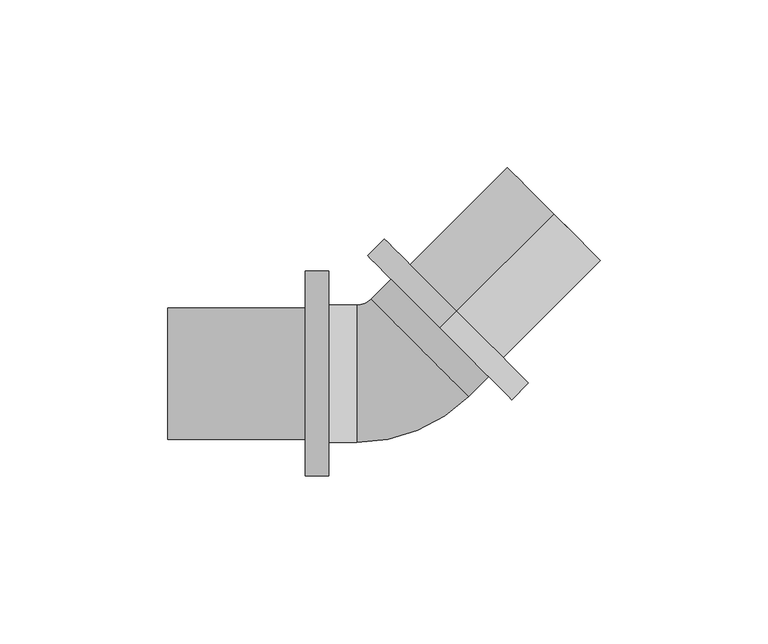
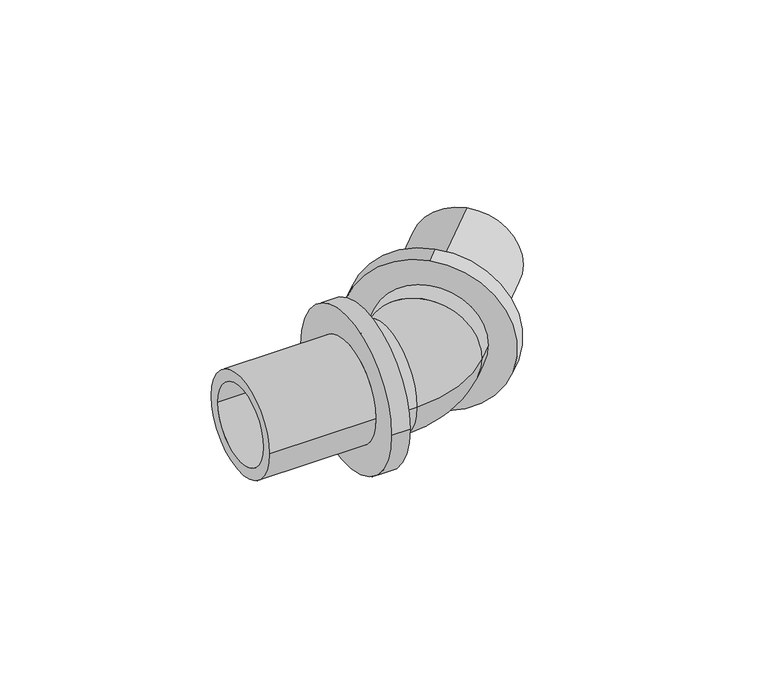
"""IFC4 building model written with IfcOpenShell, lengths in millimetres: pipe fitting geometry, RAUTITAN_Corner_RX+ : RTI RX+ C DN."""

from ifc_helpers import new_model, si_unit, point, frame, origin, place, context, project, spatial, polyline, circle_curve, ellipse_curve, trimmed, source, transform, mapped, element, save
from ifc_brep_helpers import plane_surface, cylinder_surface, revolved_surface, advanced_brep


def pipe_fitting_b246e7b6(model_context):
    return source(origin(), model_context, "Body", "AdvancedBrep", [
        advanced_brep(
        [(18.667619, 18.667619, 30.55), (18.667619, 18.667619, -30.55), (13.7178716, 13.7178716, -30.55), (13.7178716, 13.7178716, 30.55), (47.6589971, 47.6589971, 19.65), (47.6589971, 47.6589971, -19.65), (18.667619, 18.667619, -19.65), (18.667619, 18.667619, 19.65), (13.7178716, 13.7178716, 15.25), (13.7178716, 13.7178716, -15.25), (47.6589971, 47.6589971, -15.25), (47.6589971, 47.6589971, 15.25)],
        [
            (0, 1, circle_curve(frame((18.667619, 18.667619, 0.0), z_axis=(-0.707106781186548, -0.707106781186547, 0.0), x_axis=(0.0, 0.0, -1.0)), 30.55)),
            (1, 2),
            (2, 3, circle_curve(frame((13.7178716, 13.7178716, 0.0), z_axis=(0.707106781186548, 0.707106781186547, 0.0), x_axis=(0.0, 0.0, -1.0)), 30.55)),
            (3, 0),
            (4, 5, circle_curve(frame((47.6589971, 47.6589971, 0.0), z_axis=(-0.707106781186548, -0.707106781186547, 0.0), x_axis=(0.0, 0.0, -1.0)), 19.65)),
            (5, 6),
            (6, 7, circle_curve(frame((18.667619, 18.667619, 0.0), z_axis=(0.707106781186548, 0.707106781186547, 0.0), x_axis=(0.0, 0.0, -1.0)), 19.65)),
            (7, 4),
            (8, 9, circle_curve(frame((13.7178716, 13.7178716, 0.0), z_axis=(-0.707106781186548, -0.707106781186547, 0.0), x_axis=(0.0, 0.0, -1.0)), 15.25)),
            (9, 10),
            (10, 11, circle_curve(frame((47.6589971, 47.6589971, 0.0), z_axis=(0.707106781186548, 0.707106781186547, 0.0), x_axis=(0.0, 0.0, -1.0)), 15.25)),
            (11, 8),
            (1, 0, circle_curve(frame((18.667619, 18.667619, 0.0), z_axis=(-0.707106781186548, -0.707106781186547, 0.0), x_axis=(0.0, 0.0, 1.0)), 30.55)),
            (3, 2, circle_curve(frame((13.7178716, 13.7178716, 0.0), z_axis=(0.707106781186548, 0.707106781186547, 0.0), x_axis=(0.0, 0.0, 1.0)), 30.55)),
            (6, 7, circle_curve(frame((18.667619, 18.667619, 0.0), z_axis=(-0.707106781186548, -0.707106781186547, 0.0), x_axis=(0.0, 0.0, 1.0)), 19.65)),
            (5, 4, circle_curve(frame((47.6589971, 47.6589971, 0.0), z_axis=(-0.707106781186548, -0.707106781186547, 0.0), x_axis=(0.0, 0.0, 1.0)), 19.65)),
            (10, 11, circle_curve(frame((47.6589971, 47.6589971, 0.0), z_axis=(-0.707106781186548, -0.707106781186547, 0.0), x_axis=(0.0, 0.0, 1.0)), 15.25)),
            (9, 8, circle_curve(frame((13.7178716, 13.7178716, 0.0), z_axis=(-0.707106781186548, -0.707106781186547, 0.0), x_axis=(0.0, 0.0, 1.0)), 15.25)),
        ],
        [
            cylinder_surface(frame((13.7178716, 13.7178716, 0.0), z_axis=(0.707106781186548, 0.707106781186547, 0.0), x_axis=(0.0, 0.0, -1.0)), 30.55),
            cylinder_surface(frame((13.7178716, 13.7178716, 0.0), z_axis=(0.707106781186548, 0.707106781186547, 0.0), x_axis=(0.0, 0.0, -1.0)), 19.65),
            revolved_surface(polyline([(47.65899710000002, 47.65899709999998, -15.25), (13.7178716, 13.7178716, -15.25)]), (13.7178716, 13.7178716, 0.0), (0.707106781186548, 0.707106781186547, 0.0)),
            cylinder_surface(frame((13.7178716, 13.7178716, 0.0), z_axis=(0.707106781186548, 0.707106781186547, 0.0), x_axis=(0.0, 0.0, 1.0)), 30.55),
            plane_surface(frame((18.667619, 18.667619, 0.0), z_axis=(0.707106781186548, 0.707106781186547, 0.0), x_axis=(0.0, 0.0, 1.0))),
            cylinder_surface(frame((13.7178716, 13.7178716, 0.0), z_axis=(0.707106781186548, 0.707106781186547, 0.0), x_axis=(0.0, 0.0, 1.0)), 19.65),
            plane_surface(frame((47.6589971, 47.6589971, 0.0), z_axis=(0.707106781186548, 0.707106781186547, 0.0), x_axis=(0.0, 0.0, 1.0))),
            revolved_surface(polyline([(47.65899710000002, 47.65899709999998, 15.25), (13.7178716, 13.7178716, 15.25)]), (13.7178716, 13.7178716, 0.0), (0.707106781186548, 0.707106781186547, 0.0)),
            plane_surface(frame((13.7178716, 13.7178716, 0.0), z_axis=(-0.707106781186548, -0.707106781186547, 0.0), x_axis=(0.0, 0.0, 1.0))),
        ],
        [
            (0, [[1, 2, 3, 4]]),
            (1, [[5, 6, 7, 8]]),
            (2, [[9, 10, 11, 12]]),
            (3, [[13, -4, 14, -2]]),
            (4, [[-13, -1], [15, -7]]),
            (5, [[16, -8, -15, -6]]),
            (6, [[-16, -5], [17, -11]]),
            (7, [[18, -12, -17, -10]]),
            (8, [[-14, -3], [-18, -9]]),
        ],
    ),
        advanced_brep(
        [(-26.4, -30.55, 0.0), (-26.4, 30.55, 0.0), (-19.4, 30.55, 0.0), (-19.4, -30.55, 0.0), (-67.4, -19.65, 0.0), (-67.4, 19.65, 0.0), (-26.4, 19.65, 0.0), (-26.4, -19.65, 0.0), (-19.4, -15.25, 0.0), (-19.4, 15.25, 0.0), (-67.4, 15.25, 0.0), (-67.4, -15.25, 0.0)],
        [
            (0, 1, circle_curve(frame((-26.4, 0.0, 0.0), z_axis=(1.0, 0.0, 0.0), x_axis=(0.0, 1.0, 0.0)), 30.55)),
            (1, 2),
            (2, 3, circle_curve(frame((-19.4, 0.0, 0.0), z_axis=(-1.0, 0.0, 0.0), x_axis=(0.0, 1.0, 0.0)), 30.55)),
            (3, 0),
            (4, 5, circle_curve(frame((-67.4, 0.0, 0.0), z_axis=(1.0, 0.0, 0.0), x_axis=(0.0, 1.0, 0.0)), 19.65)),
            (5, 6),
            (6, 7, circle_curve(frame((-26.4, 0.0, 0.0), z_axis=(-1.0, 0.0, 0.0), x_axis=(0.0, 1.0, 0.0)), 19.65)),
            (7, 4),
            (8, 9, circle_curve(frame((-19.4, 0.0, 0.0), z_axis=(1.0, 0.0, 0.0), x_axis=(0.0, 1.0, 0.0)), 15.25)),
            (9, 10),
            (10, 11, circle_curve(frame((-67.4, 0.0, 0.0), z_axis=(-1.0, 0.0, 0.0), x_axis=(0.0, 1.0, 0.0)), 15.25)),
            (11, 8),
            (1, 0, circle_curve(frame((-26.4, 0.0, 0.0), z_axis=(1.0, 0.0, 0.0), x_axis=(0.0, -1.0, 0.0)), 30.55)),
            (3, 2, circle_curve(frame((-19.4, 0.0, 0.0), z_axis=(-1.0, 0.0, 0.0), x_axis=(0.0, -1.0, 0.0)), 30.55)),
            (6, 7, circle_curve(frame((-26.4, 0.0, 0.0), z_axis=(1.0, 0.0, 0.0), x_axis=(0.0, -1.0, 0.0)), 19.65)),
            (5, 4, circle_curve(frame((-67.4, 0.0, 0.0), z_axis=(1.0, 0.0, 0.0), x_axis=(0.0, -1.0, 0.0)), 19.65)),
            (10, 11, circle_curve(frame((-67.4, 0.0, 0.0), z_axis=(1.0, 0.0, 0.0), x_axis=(0.0, -1.0, 0.0)), 15.25)),
            (9, 8, circle_curve(frame((-19.4, 0.0, 0.0), z_axis=(1.0, 0.0, 0.0), x_axis=(0.0, -1.0, 0.0)), 15.25)),
        ],
        [
            cylinder_surface(frame((-19.4, 0.0, 0.0), z_axis=(-1.0, 0.0, 0.0), x_axis=(0.0, 1.0, 0.0)), 30.55),
            cylinder_surface(frame((-19.4, 0.0, 0.0), z_axis=(-1.0, 0.0, 0.0), x_axis=(0.0, 1.0, 0.0)), 19.65),
            revolved_surface(polyline([(-67.4, 15.25, 0.0), (-19.4, 15.25, 0.0)]), (-19.4, 0.0, 0.0), (-1.0, 0.0, 0.0)),
            cylinder_surface(frame((-19.4, 0.0, 0.0), z_axis=(-1.0, 0.0, 0.0), x_axis=(0.0, -1.0, 0.0)), 30.55),
            plane_surface(frame((-26.4, 0.0, 0.0), z_axis=(-1.0, 0.0, 0.0), x_axis=(0.0, -1.0, 0.0))),
            cylinder_surface(frame((-19.4, 0.0, 0.0), z_axis=(-1.0, 0.0, 0.0), x_axis=(0.0, -1.0, 0.0)), 19.65),
            plane_surface(frame((-67.4, 0.0, 0.0), z_axis=(-1.0, 0.0, 0.0), x_axis=(0.0, -1.0, 0.0))),
            revolved_surface(polyline([(-67.4, -15.25, 0.0), (-19.4, -15.25, 0.0)]), (-19.4, 0.0, 0.0), (-1.0, 0.0, 0.0)),
            plane_surface(frame((-19.4, 0.0, 0.0), z_axis=(1.0, 0.0, 0.0), x_axis=(0.0, -1.0, 0.0))),
        ],
        [
            (0, [[1, 2, 3, 4]]),
            (1, [[5, 6, 7, 8]]),
            (2, [[9, 10, 11, 12]]),
            (3, [[13, -4, 14, -2]]),
            (4, [[-13, -1], [15, -7]]),
            (5, [[16, -8, -15, -6]]),
            (6, [[-16, -5], [17, -11]]),
            (7, [[18, -12, -17, -10]]),
            (8, [[-14, -3], [-18, -9]]),
        ],
    ),
        advanced_brep(
        [(-19.4, 20.55, 0.0), (-19.4, -20.55, 0.0), (-19.4, 15.25, 0.0), (-19.4, -15.25, 0.0), (-10.9766594, -15.25, 0.0), (-10.9766594, 15.25, 0.0), (-10.9766594, -20.55, 0.0), (-10.9766594, 20.55, 0.0), (28.2489159, -0.8131728, 0.0), (-0.8131728, 28.2489159, 0.0), (24.50125, 2.9344931, 0.0), (2.9344931, 24.50125, 0.0), (-3.0217081, 18.5450487, 0.0), (18.5450487, -3.0217081, 0.0), (-6.7693741, 22.2927147, 0.0), (22.2927147, -6.7693741, 0.0)],
        [
            (0, 1, circle_curve(frame((-19.4, 0.0, 0.0), z_axis=(-1.0, 0.0, 0.0), x_axis=(0.0, -1.0, 0.0)), 20.55)),
            (1, 0, circle_curve(frame((-19.4, 0.0, 0.0), z_axis=(-1.0, 0.0, 0.0), x_axis=(0.0, -1.0, 0.0)), 20.55)),
            (2, 3, circle_curve(frame((-19.4, 0.0, 0.0), z_axis=(1.0, 0.0, 0.0), x_axis=(0.0, -1.0, 0.0)), 15.25)),
            (3, 2, circle_curve(frame((-19.4, 0.0, 0.0), z_axis=(1.0, 0.0, 0.0), x_axis=(0.0, -1.0, 0.0)), 15.25)),
            (3, 4),
            (4, 5, circle_curve(frame((-10.9766594, 0.0, 0.0), z_axis=(1.0, 0.0, 0.0), x_axis=(0.0, -1.0, 0.0)), 15.25)),
            (5, 2),
            (5, 4, circle_curve(frame((-10.9766594, 0.0, 0.0), z_axis=(1.0, 0.0, 0.0), x_axis=(0.0, -1.0, 0.0)), 15.25)),
            (1, 6),
            (6, 7, circle_curve(frame((-10.9766594, 0.0, 0.0), z_axis=(-1.0, 0.0, 0.0), x_axis=(0.0, -1.0, 0.0)), 20.55)),
            (7, 0),
            (7, 6, circle_curve(frame((-10.9766594, 0.0, 0.0), z_axis=(-1.0, 0.0, 0.0), x_axis=(0.0, -1.0, 0.0)), 20.55)),
            (8, 9, circle_curve(frame((13.7178716, 13.7178716, 0.0), z_axis=(0.7071067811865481, 0.7071067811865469, 0.0), x_axis=(-0.7071067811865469, 0.7071067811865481, 0.0)), 20.55)),
            (9, 8, circle_curve(frame((13.7178716, 13.7178716, 0.0), z_axis=(0.7071067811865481, 0.7071067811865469, 0.0), x_axis=(-0.7071067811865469, 0.7071067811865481, 0.0)), 20.55)),
            (10, 11, circle_curve(frame((13.7178716, 13.7178716, 0.0), z_axis=(-0.7071067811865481, -0.7071067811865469, 0.0), x_axis=(-0.7071067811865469, 0.7071067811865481, 0.0)), 15.25)),
            (11, 10, circle_curve(frame((13.7178716, 13.7178716, 0.0), z_axis=(-0.7071067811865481, -0.7071067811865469, 0.0), x_axis=(-0.7071067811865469, 0.7071067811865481, 0.0)), 15.25)),
            (11, 12),
            (12, 13, circle_curve(frame((7.7616703, 7.7616703, 0.0), z_axis=(-0.7071067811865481, -0.7071067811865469, 0.0), x_axis=(-0.7071067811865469, 0.7071067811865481, 0.0)), 15.25)),
            (13, 10),
            (13, 12, circle_curve(frame((7.7616703, 7.7616703, 0.0), z_axis=(-0.7071067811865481, -0.7071067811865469, 0.0), x_axis=(-0.7071067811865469, 0.7071067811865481, 0.0)), 15.25)),
            (9, 14),
            (14, 15, circle_curve(frame((7.7616703, 7.7616703, 0.0), z_axis=(0.7071067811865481, 0.7071067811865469, 0.0), x_axis=(-0.7071067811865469, 0.7071067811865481, 0.0)), 20.55)),
            (15, 8),
            (15, 14, circle_curve(frame((7.7616703, 7.7616703, 0.0), z_axis=(0.7071067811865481, 0.7071067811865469, 0.0), x_axis=(-0.7071067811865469, 0.7071067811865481, 0.0)), 20.55)),
            (12, 5, circle_curve(frame((-10.9766594, 26.5, 0.0), z_axis=(0.0, 0.0, -1.0), x_axis=(0.0, -1.0, 0.0)), 11.25)),
            (4, 13, circle_curve(frame((-10.9766594, 26.5, 0.0), z_axis=(0.0, 0.0, 1.0), x_axis=(0.0, -1.0, 0.0)), 41.75)),
            (14, 7, circle_curve(frame((-10.9766594, 26.5, 0.0), z_axis=(0.0, 0.0, -1.0), x_axis=(0.0, -1.0, 0.0)), 5.95)),
            (6, 15, circle_curve(frame((-10.9766594, 26.5, 0.0), z_axis=(0.0, 0.0, 1.0), x_axis=(0.0, -1.0, 0.0)), 47.05)),
        ],
        [
            plane_surface(frame((-19.4, 0.0, 0.0), z_axis=(-1.0, 0.0, 0.0), x_axis=(0.0, 0.0, 1.0))),
            revolved_surface(polyline([(-19.4, -15.25, 0.0), (-10.9766594, -15.25, 0.0)]), (-10.9766594, 0.0, 0.0), (-1.0, 0.0, 0.0)),
            cylinder_surface(frame((-10.9766594, 0.0, 0.0), z_axis=(1.0, 0.0, 0.0), x_axis=(0.0, -1.0, 0.0)), 20.55),
            plane_surface(frame((13.7178716, 13.7178716, 0.0), z_axis=(0.7071067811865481, 0.7071067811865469, 0.0), x_axis=(0.0, 0.0, 1.0))),
            revolved_surface(polyline([(2.934493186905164, 24.501250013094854, 0.0), (-3.0217081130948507, 18.545048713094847, 0.0)]), (7.7616703, 7.7616703, 0.0), (0.7071067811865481, 0.7071067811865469, 0.0)),
            cylinder_surface(frame((7.7616703, 7.7616703, 0.0), z_axis=(-0.7071067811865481, -0.7071067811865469, 0.0), x_axis=(-0.7071067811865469, 0.7071067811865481, 0.0)), 20.55),
            revolved_surface(trimmed(ellipse_curve(frame((-10.9766594, 0.0, 0.0), z_axis=(1.0, 0.0, 0.0), x_axis=(0.0, 1.0, 0.0)), 15.25, 15.25), [point((-10.9766594, -15.25, 0.0))], [point((-10.9766594, 15.25, 0.0))], True, "CARTESIAN"), (-10.9766594, 26.5, 0.0), (0.0, 0.0, 1.0)),
            revolved_surface(trimmed(ellipse_curve(frame((-10.9766594, 0.0, 0.0), z_axis=(1.0, 0.0, 0.0), x_axis=(0.0, 1.0, 0.0)), 15.25, 15.25), [point((-10.9766594, 15.25, 0.0))], [point((-10.9766594, -15.25, 0.0))], True, "CARTESIAN"), (-10.9766594, 26.5, 0.0), (0.0, 0.0, 1.0)),
            revolved_surface(trimmed(ellipse_curve(frame((-10.9766594, 0.0, 0.0), z_axis=(-1.0, 0.0, 0.0), x_axis=(0.0, 1.0, 0.0)), 20.55, 20.55), [point((-10.9766594, -20.55, 0.0))], [point((-10.9766594, 20.55, 0.0))], True, "CARTESIAN"), (-10.9766594, 26.5, 0.0), (0.0, 0.0, 1.0)),
            revolved_surface(trimmed(ellipse_curve(frame((-10.9766594, 0.0, 0.0), z_axis=(-1.0, 0.0, 0.0), x_axis=(0.0, 1.0, 0.0)), 20.55, 20.55), [point((-10.9766594, 20.55, 0.0))], [point((-10.9766594, -20.55, 0.0))], True, "CARTESIAN"), (-10.9766594, 26.5, 0.0), (0.0, 0.0, 1.0)),
        ],
        [
            (0, [[1, 2], [3, 4]]),
            (1, [[-4, 5, 6, 7]]),
            (1, [[-3, -7, 8, -5]]),
            (2, [[-2, 9, 10, 11]]),
            (2, [[-1, -11, 12, -9]]),
            (3, [[13, 14], [15, 16]]),
            (4, [[-16, 17, 18, 19]]),
            (4, [[-15, -19, 20, -17]]),
            (5, [[-14, 21, 22, 23]]),
            (5, [[-13, -23, 24, -21]]),
            (6, [[25, -6, 26, -18]]),
            (7, [[-25, -20, -26, -8]]),
            (8, [[27, -10, 28, -22]]),
            (9, [[-27, -24, -28, -12]]),
        ],
    ),
    ])


if __name__ == "__main__":
    model = new_model("IFC4")
    model_context = context("Model", 3, world=origin())
    ifc_project = project(units=[si_unit("LENGTHUNIT", "METRE", prefix="MILLI")], contexts=[model_context])
    site = spatial("IfcSite", under=ifc_project)
    building = spatial("IfcBuilding", under=site)
    placement = place(None, origin())
    pipe_fitting_shape = pipe_fitting_b246e7b6(model_context)
    element("IfcPipeFitting", 1, ObjectType="RAUTITAN_Corner_RX+ : RTI RX+ C DN", at=placement, inside=building, context=model_context, shape_type="MappedRepresentation", body=[
        mapped(pipe_fitting_shape, transform((0.0, 0.0, 0.0), x_axis=(1.0, 0.0, 0.0), y_axis=(0.0, 1.0, 0.0), z_axis=(0.0, 0.0, 1.0))),
    ])
    save(model, "model.ifc")
